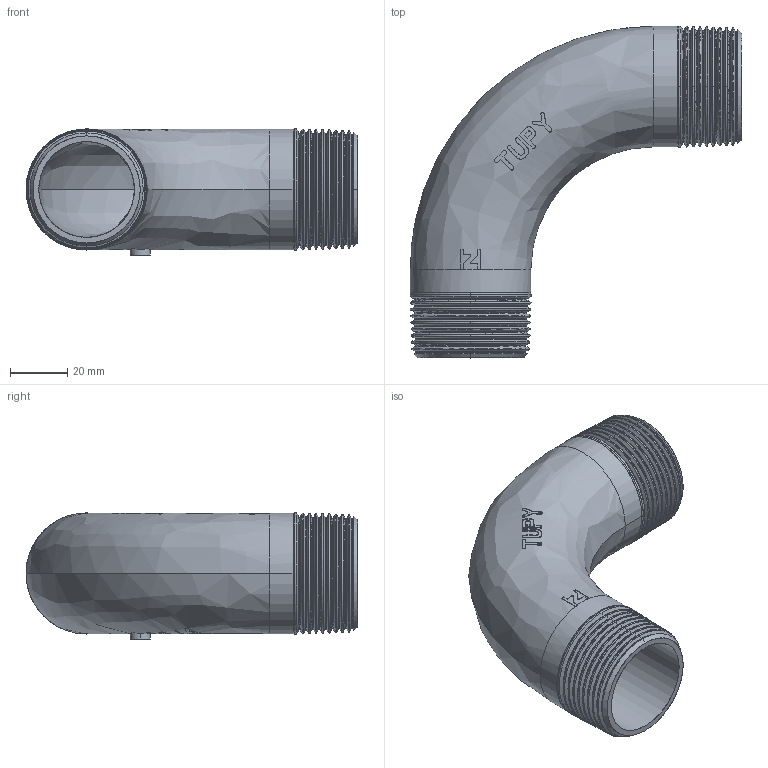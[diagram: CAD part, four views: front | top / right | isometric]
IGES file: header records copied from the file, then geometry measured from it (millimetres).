
Start section: SolidWorks IGES file using analytic representation for surfaces
Global section: file name: C:\Users\Joel Rosa\Desktop\Tubulação\12-25-OK\12-25-008.IGS; native system: SolidWorks 2011; preprocessor: SolidWorks 2011; author: Joel Rosa; date: 121207.021452; units: millimetre
Bounding box: 116.22 x 116.22 x 44.22 mm (x, y, z)
Surface area: 42683.2 mm2 (no closed solid volume)
Topology: 0 solids, 0 shells, 327 faces, 2652 edges, 2652 vertices
Faces by surface type: bspline 234, revolution 93
